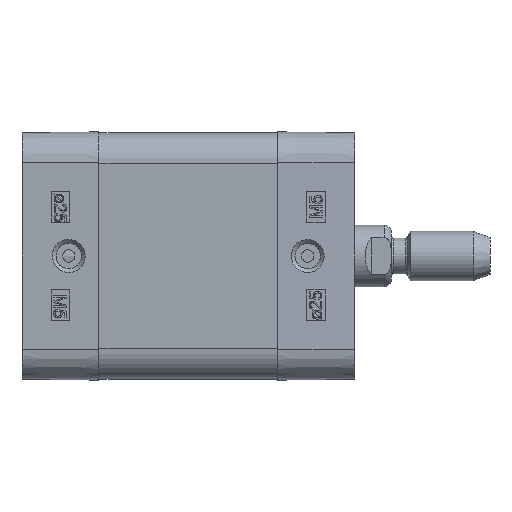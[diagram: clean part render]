
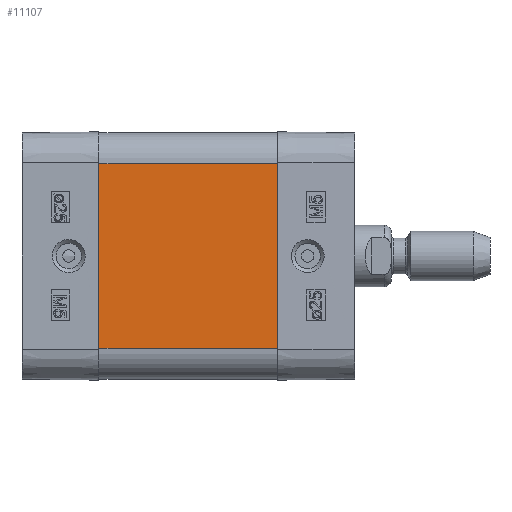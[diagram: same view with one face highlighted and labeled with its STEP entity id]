
A CAD part, left-side view. The second image highlights one B-rep face of the part: STEP entity #11107.
In plain terms, the highlighted planar face has unit normal (-1, 0, 0).
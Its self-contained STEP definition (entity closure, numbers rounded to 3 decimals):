
#8889=CARTESIAN_POINT('',(-20.,-29.,15.0));
#8890=VERTEX_POINT('',#8889);
#8898=CARTESIAN_POINT('',(-20.,-29.,-15.));
#8899=VERTEX_POINT('',#8898);
#8900=CARTESIAN_POINT('',(-20.,-29.,-15.));
#8901=DIRECTION('',(0.0,0.0,1.0));
#8902=VECTOR('',#8901,30.);
#8903=LINE('',#8900,#8902);
#8904=EDGE_CURVE('',#8899,#8890,#8903,.T.);
#10035=CARTESIAN_POINT('',(-20.,0.0,15.0));
#10036=VERTEX_POINT('',#10035);
#10044=CARTESIAN_POINT('',(-20.,0.0,15.0));
#10045=DIRECTION('',(0.0,-1.0,0.0));
#10046=VECTOR('',#10045,29.);
#10047=LINE('',#10044,#10046);
#10048=EDGE_CURVE('',#10036,#8890,#10047,.T.);
#11072=CARTESIAN_POINT('',(-20.,0.0,-15.));
#11073=VERTEX_POINT('',#11072);
#11074=CARTESIAN_POINT('',(-20.,0.0,-15.));
#11075=DIRECTION('',(0.0,-1.0,0.0));
#11076=VECTOR('',#11075,29.);
#11077=LINE('',#11074,#11076);
#11078=EDGE_CURVE('',#11073,#8899,#11077,.T.);
#11091=CARTESIAN_POINT('',(-20.,0.0,-15.));
#11092=DIRECTION('',(-1.0,0.0,0.0));
#11093=DIRECTION('',(0.0,0.0,1.0));
#11094=AXIS2_PLACEMENT_3D('',#11091,#11092,#11093);
#11095=PLANE('',#11094);
#11096=ORIENTED_EDGE('',*,*,#8904,.T.);
#11097=ORIENTED_EDGE('',*,*,#10048,.F.);
#11098=CARTESIAN_POINT('',(-20.,0.0,-15.));
#11099=DIRECTION('',(0.0,0.0,1.0));
#11100=VECTOR('',#11099,30.);
#11101=LINE('',#11098,#11100);
#11102=EDGE_CURVE('',#11073,#10036,#11101,.T.);
#11103=ORIENTED_EDGE('',*,*,#11102,.F.);
#11104=ORIENTED_EDGE('',*,*,#11078,.T.);
#11105=EDGE_LOOP('',(#11096,#11097,#11103,#11104));
#11106=FACE_OUTER_BOUND('',#11105,.T.);
#11107=ADVANCED_FACE('',(#11106),#11095,.T.);
